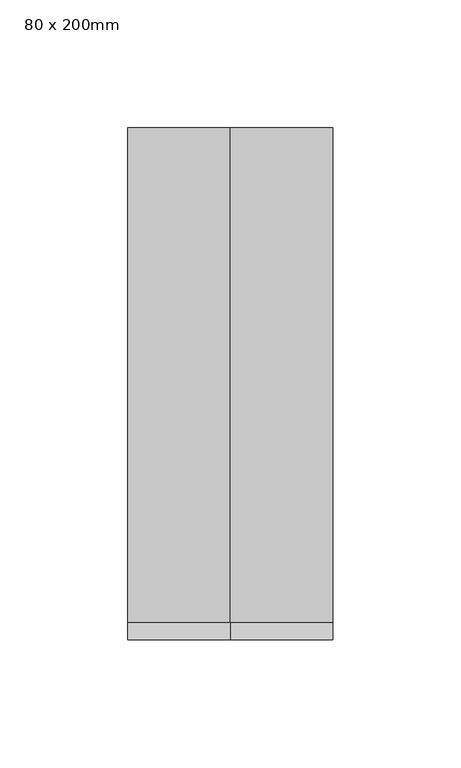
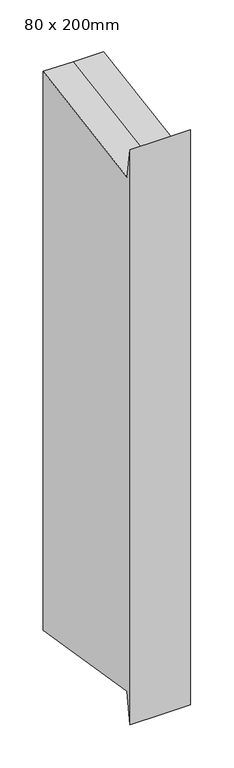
"""IFC4 building model written with IfcOpenShell, lengths in millimetres: member geometry, 矩形竖梃 : 80 x 200mm."""

from ifc_helpers import new_model, si_unit, origin, place, context, project, spatial, faceted_brep, source, transform, mapped, element, save


def member_80_x_200mm_02b9a5ef(model_context):
    return source(origin(), model_context, "Body", "Brep", [
        faceted_brep([(-40.0, 100.0, 15.6550995), (0.0, 100.0, 15.6550995), (40.0, 100.0, 15.6550995), (40.0, 100.0, -768.6260916), (0.0, 100.0, -768.6260916), (-40.0, 100.0, -768.6260916), (-40.0, -100.0, 26.9984805), (-40.0, -93.1622284, -15.4559133), (-40.0, -93.1622284, -737.5150787), (-40.0, -100.0, -779.9694726), (40.0, -100.0, 26.9984805), (0.0, -100.0, 26.9984805), (0.0, -100.0, -779.9694726), (40.0, -100.0, -779.9694726), (40.0, -93.1622284, -15.4559133), (40.0, -93.1622284, -737.5150787), (0.0, -93.1622284, -15.4559133), (0.0, -93.1622284, -737.5150787)], [[[0, 1, 2, 3, 4, 5]], [[6, 7, 0, 5, 8, 9]], [[10, 11, 6, 9, 12, 13]], [[2, 14, 10, 13, 15, 3]], [[2, 1, 16, 14]], [[1, 0, 7, 16]], [[7, 6, 11, 16]], [[11, 10, 14, 16]], [[3, 15, 17, 4]], [[15, 13, 12, 17]], [[12, 9, 8, 17]], [[8, 5, 4, 17]]]),
    ])


if __name__ == "__main__":
    model = new_model("IFC4")
    model_context = context("Model", 3, world=origin())
    ifc_project = project(units=[si_unit("LENGTHUNIT", "METRE", prefix="MILLI")], contexts=[model_context])
    site = spatial("IfcSite", under=ifc_project)
    building = spatial("IfcBuilding", under=site)
    placement = place(None, origin())
    member_80_x_200mm_shape = member_80_x_200mm_02b9a5ef(model_context)
    element("IfcMember", 1, ObjectType="矩形竖梃 : 80 x 200mm", at=placement, inside=building, context=model_context, shape_type="MappedRepresentation", body=[
        mapped(member_80_x_200mm_shape, transform((0.0, 0.0, 0.0), x_axis=(1.0, 0.0, 0.0), y_axis=(0.0, 1.0, 0.0), z_axis=(0.0, 0.0, 1.0))),
    ])
    save(model, "model.ifc")
